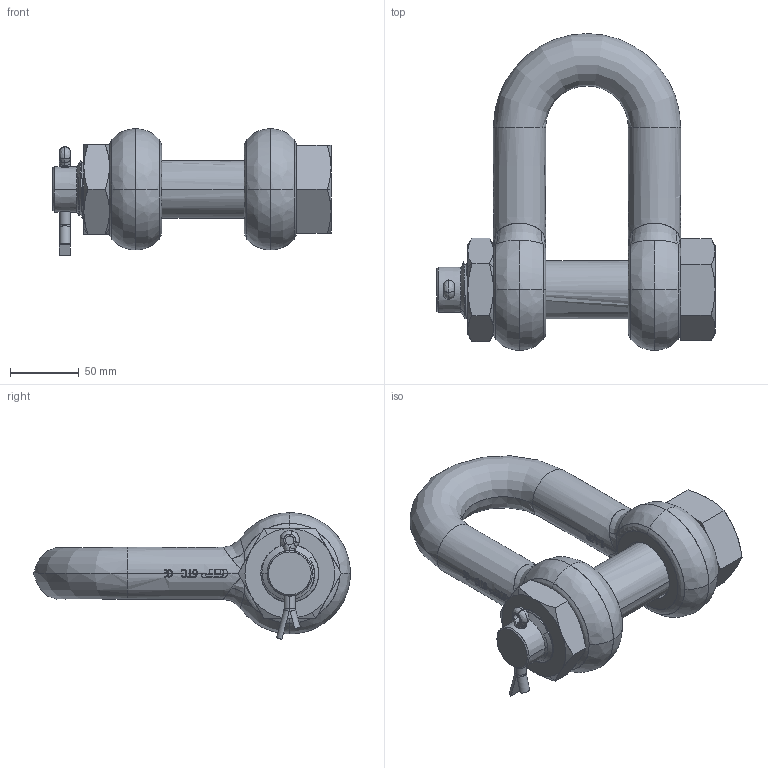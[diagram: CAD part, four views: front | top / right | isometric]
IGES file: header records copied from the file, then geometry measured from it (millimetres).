
Start section: START RECORD GO HERE.
Global section: file name: 17.igs; native system: Solidworks 2009      A Version 5 Release 17 ; preprocessor: Solidworks                 ; author: v.b.; organization: P4; date: 20090807.084051; units: millimetre
Bounding box: 202 x 230 x 91.86 mm (x, y, z)
Surface area: 130962 mm2 (no closed solid volume)
Topology: 0 solids, 0 shells, 737 faces, 4621 edges, 4613 vertices
Faces by surface type: plane 301, bspline 275, revolution 161
